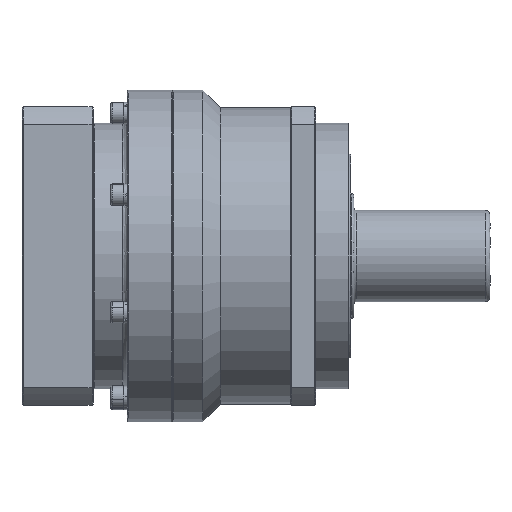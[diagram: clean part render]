
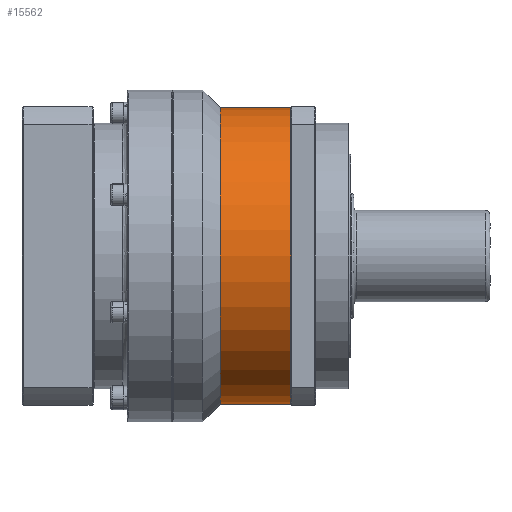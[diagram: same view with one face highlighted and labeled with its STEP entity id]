
A CAD part, front view. The second image highlights one B-rep face of the part: STEP entity #15562.
In plain terms, the highlighted cylindrical face has radius 89.5 mm (diameter 179 mm), a partial arc.
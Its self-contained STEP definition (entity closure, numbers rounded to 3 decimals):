
#328 = CARTESIAN_POINT ( 'NONE',  ( 71.5, 0., 89.5 ) ) ;
#1145 = ORIENTED_EDGE ( 'NONE', *, *, #3082, .T. ) ;
#1188 = AXIS2_PLACEMENT_3D ( 'NONE', #21291, #12069, #6645 ) ;
#1564 = ORIENTED_EDGE ( 'NONE', *, *, #9366, .T. ) ;
#2143 = VECTOR ( 'NONE', #16196, 1000. ) ;
#3082 = EDGE_CURVE ( 'NONE', #7983, #12573, #15143, .T. ) ;
#5450 = CARTESIAN_POINT ( 'NONE',  ( 29., 0., -89.5 ) ) ;
#5488 = DIRECTION ( 'NONE',  ( 0., 0., 1. ) ) ;
#5697 = CARTESIAN_POINT ( 'NONE',  ( 0., 0., -89.5 ) ) ;
#6480 = CARTESIAN_POINT ( 'NONE',  ( 71.5, -89.5, 0. ) ) ;
#6624 = CIRCLE ( 'NONE', #12424, 89.5 ) ;
#6645 = DIRECTION ( 'NONE',  ( 0., 0., 1. ) ) ;
#6660 = DIRECTION ( 'NONE',  ( -1., 0., 0. ) ) ;
#7177 = EDGE_CURVE ( 'NONE', #8603, #12573, #10617, .T. ) ;
#7353 = VERTEX_POINT ( 'NONE', #11570 ) ;
#7983 = VERTEX_POINT ( 'NONE', #328 ) ;
#8603 = VERTEX_POINT ( 'NONE', #5450 ) ;
#8834 = VERTEX_POINT ( 'NONE', #6480 ) ;
#9253 = AXIS2_PLACEMENT_3D ( 'NONE', #16312, #16544, #5488 ) ;
#9335 = FACE_OUTER_BOUND ( 'NONE', #18477, .T. ) ;
#9366 = EDGE_CURVE ( 'NONE', #8834, #7983, #6624, .T. ) ;
#10617 = CIRCLE ( 'NONE', #1188, 89.5 ) ;
#10992 = ORIENTED_EDGE ( 'NONE', *, *, #7177, .F. ) ;
#11570 = CARTESIAN_POINT ( 'NONE',  ( 71.5, 0., -89.5 ) ) ;
#12069 = DIRECTION ( 'NONE',  ( -1., 0., 0. ) ) ;
#12424 = AXIS2_PLACEMENT_3D ( 'NONE', #17802, #6660, #19388 ) ;
#12573 = VERTEX_POINT ( 'NONE', #23693 ) ;
#13625 = DIRECTION ( 'NONE',  ( -1., 0., 0. ) ) ;
#14242 = CYLINDRICAL_SURFACE ( 'NONE', #14646, 89.5 ) ;
#14646 = AXIS2_PLACEMENT_3D ( 'NONE', #14732, #18592, #14864 ) ;
#14732 = CARTESIAN_POINT ( 'NONE',  ( 0., 0., 0. ) ) ;
#14864 = DIRECTION ( 'NONE',  ( 0., 0., 1. ) ) ;
#15143 = LINE ( 'NONE', #23449, #2143 ) ;
#15562 = ADVANCED_FACE ( 'NONE', ( #9335 ), #14242, .T. ) ;
#16196 = DIRECTION ( 'NONE',  ( -1., 0., 0. ) ) ;
#16312 = CARTESIAN_POINT ( 'NONE',  ( 71.5, 0., 0. ) ) ;
#16544 = DIRECTION ( 'NONE',  ( -1., 0., 0. ) ) ;
#17606 = EDGE_CURVE ( 'NONE', #7353, #8603, #20004, .T. ) ;
#17802 = CARTESIAN_POINT ( 'NONE',  ( 71.5, 0., 0. ) ) ;
#18477 = EDGE_LOOP ( 'NONE', ( #18613, #20377, #1564, #1145, #10992 ) ) ;
#18592 = DIRECTION ( 'NONE',  ( -1., 0., 0. ) ) ;
#18613 = ORIENTED_EDGE ( 'NONE', *, *, #17606, .F. ) ;
#18969 = CIRCLE ( 'NONE', #9253, 89.5 ) ;
#19388 = DIRECTION ( 'NONE',  ( 0., 0., 1. ) ) ;
#19712 = EDGE_CURVE ( 'NONE', #7353, #8834, #18969, .T. ) ;
#20004 = LINE ( 'NONE', #5697, #20576 ) ;
#20377 = ORIENTED_EDGE ( 'NONE', *, *, #19712, .T. ) ;
#20576 = VECTOR ( 'NONE', #13625, 1000. ) ;
#21291 = CARTESIAN_POINT ( 'NONE',  ( 29., 0., 0. ) ) ;
#23449 = CARTESIAN_POINT ( 'NONE',  ( 0., 0., 89.5 ) ) ;
#23693 = CARTESIAN_POINT ( 'NONE',  ( 29., 0., 89.5 ) ) ;
